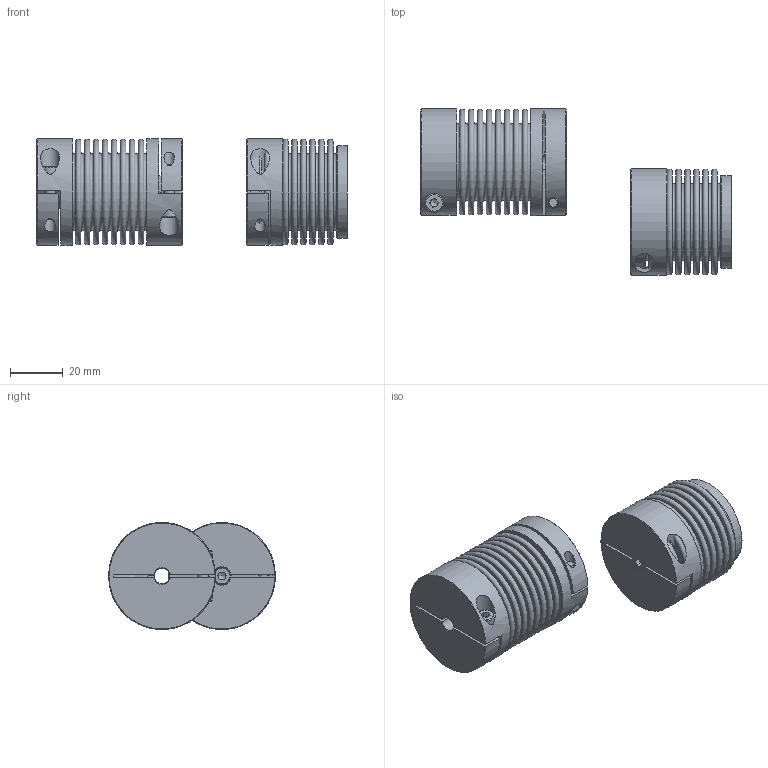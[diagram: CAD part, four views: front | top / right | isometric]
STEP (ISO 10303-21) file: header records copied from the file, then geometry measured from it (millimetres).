
FILE_DESCRIPTION( ( 'Unknown' ), '1' );
FILE_NAME( 'C:/Dokumente und Einstellungen/Sven/Desktop/cad - homepage/KB2/KB2-100-57.stp', 'Unknown', ( 'Unknown' ), ( 'Unknown' ), 'XStep 1.0', 'Unknown', ' ' );
FILE_SCHEMA( ( 'automotive_design' ) );
Length unit declared in the file: millimetre
Products named in the file (4): Assem1; BL100_Standard; Socket Head Cap Screw_DIN_DIN 912 M4 x 16 --- 16N_0; KN10_Standard_3
Bounding box: 117.47 x 63.2 x 40.5 mm (x, y, z)
Volume: 58274.3 mm3; surface area: 71396.3 mm2
Topology: 8 solids, 8 shells, 283 faces, 554 edges, 362 vertices
Faces by surface type: plane 148, torus 82, cylinder 38, cone 15
Full cylindrical faces by diameter (mm): 4 x6, 4.2 x3, 6 x3, 7 x3, 7.2 x3, 34.343 x2, 35.143 x2, 35.2 x2, 36 x2, 40.5 x3
Entity records: 3578 total; most frequent: CARTESIAN_POINT 585, DIRECTION 521, ORIENTED_EDGE 328, AXIS2_PLACEMENT_3D 240, EDGE_LOOP 219, FACE_OUTER_BOUND 172, EDGE_CURVE 164, VERTEX_POINT 140
